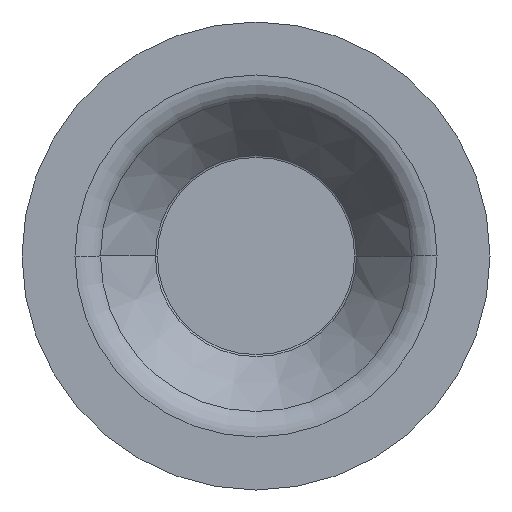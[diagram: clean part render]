
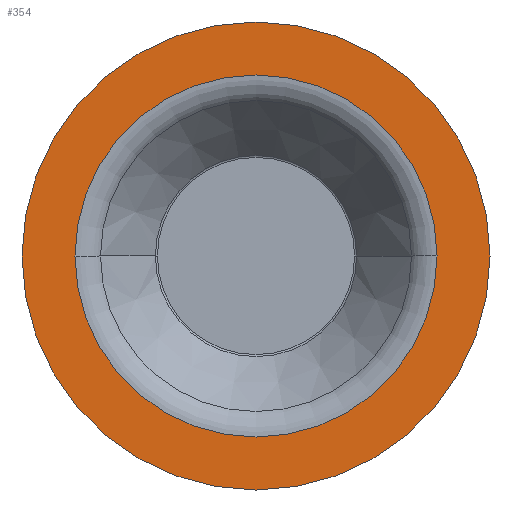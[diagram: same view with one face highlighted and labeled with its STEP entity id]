
A CAD part, front view. The second image highlights one B-rep face of the part: STEP entity #354.
In plain terms, the highlighted planar face has unit normal (0, -1, 0).
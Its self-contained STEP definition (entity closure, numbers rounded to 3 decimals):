
#72 = CIRCLE ( 'NONE', #682, 47.5 ) ;
#107 = EDGE_CURVE ( 'NONE', #629, #1201, #72, .T. ) ;
#146 = AXIS2_PLACEMENT_3D ( 'NONE', #885, #1269, #623 ) ;
#163 = ORIENTED_EDGE ( 'NONE', *, *, #107, .T. ) ;
#192 = CARTESIAN_POINT ( 'NONE',  ( 0., -22., 0. ) ) ;
#202 = DIRECTION ( 'NONE',  ( 0., -1., 0. ) ) ;
#330 = CARTESIAN_POINT ( 'NONE',  ( -36.744, -22., 0. ) ) ;
#354 = ADVANCED_FACE ( 'NONE', ( #1388, #491 ), #366, .T. ) ;
#359 = CIRCLE ( 'NONE', #1082, 47.5 ) ;
#366 = PLANE ( 'NONE',  #146 ) ;
#367 = EDGE_CURVE ( 'NONE', #1201, #629, #359, .T. ) ;
#397 = CARTESIAN_POINT ( 'NONE',  ( 47.5, -22., 0. ) ) ;
#413 = VERTEX_POINT ( 'NONE', #330 ) ;
#425 = DIRECTION ( 'NONE',  ( 0., -1., 0. ) ) ;
#491 = FACE_OUTER_BOUND ( 'NONE', #1291, .T. ) ;
#498 = DIRECTION ( 'NONE',  ( 1., 0., 0. ) ) ;
#543 = DIRECTION ( 'NONE',  ( 0., -1., 0. ) ) ;
#623 = DIRECTION ( 'NONE',  ( 1., 0., 0. ) ) ;
#629 = VERTEX_POINT ( 'NONE', #397 ) ;
#633 = VERTEX_POINT ( 'NONE', #776 ) ;
#682 = AXIS2_PLACEMENT_3D ( 'NONE', #192, #202, #843 ) ;
#688 = CARTESIAN_POINT ( 'NONE',  ( 0., -22., 0. ) ) ;
#726 = AXIS2_PLACEMENT_3D ( 'NONE', #688, #543, #1193 ) ;
#761 = EDGE_LOOP ( 'NONE', ( #933, #998 ) ) ;
#776 = CARTESIAN_POINT ( 'NONE',  ( 36.744, -22., 0. ) ) ;
#843 = DIRECTION ( 'NONE',  ( 1., 0., 0. ) ) ;
#885 = CARTESIAN_POINT ( 'NONE',  ( 47.5, -22., 0. ) ) ;
#933 = ORIENTED_EDGE ( 'NONE', *, *, #1155, .F. ) ;
#998 = ORIENTED_EDGE ( 'NONE', *, *, #1086, .F. ) ;
#1062 = ORIENTED_EDGE ( 'NONE', *, *, #367, .T. ) ;
#1079 = CARTESIAN_POINT ( 'NONE',  ( -47.5, -22., 0. ) ) ;
#1082 = AXIS2_PLACEMENT_3D ( 'NONE', #1135, #1647, #498 ) ;
#1086 = EDGE_CURVE ( 'NONE', #633, #413, #1207, .T. ) ;
#1135 = CARTESIAN_POINT ( 'NONE',  ( 0., -22., 0. ) ) ;
#1152 = CIRCLE ( 'NONE', #1237, 36.744 ) ;
#1155 = EDGE_CURVE ( 'NONE', #413, #633, #1152, .T. ) ;
#1173 = DIRECTION ( 'NONE',  ( -1., 0., 0. ) ) ;
#1193 = DIRECTION ( 'NONE',  ( -1., 0., 0. ) ) ;
#1201 = VERTEX_POINT ( 'NONE', #1079 ) ;
#1207 = CIRCLE ( 'NONE', #726, 36.744 ) ;
#1237 = AXIS2_PLACEMENT_3D ( 'NONE', #1305, #425, #1173 ) ;
#1269 = DIRECTION ( 'NONE',  ( 0., -1., 0. ) ) ;
#1291 = EDGE_LOOP ( 'NONE', ( #163, #1062 ) ) ;
#1305 = CARTESIAN_POINT ( 'NONE',  ( 0., -22., 0. ) ) ;
#1388 = FACE_BOUND ( 'NONE', #761, .T. ) ;
#1647 = DIRECTION ( 'NONE',  ( 0., -1., 0. ) ) ;
